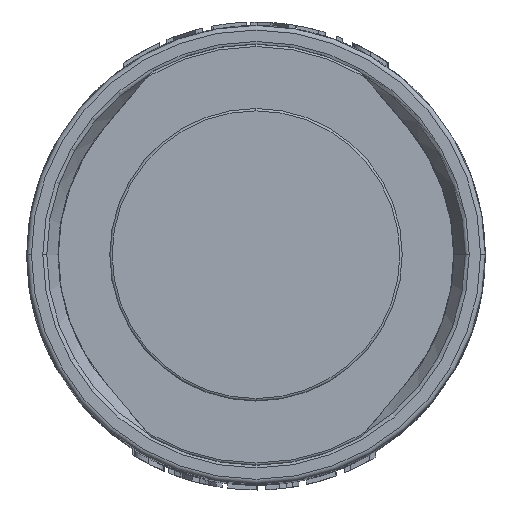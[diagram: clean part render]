
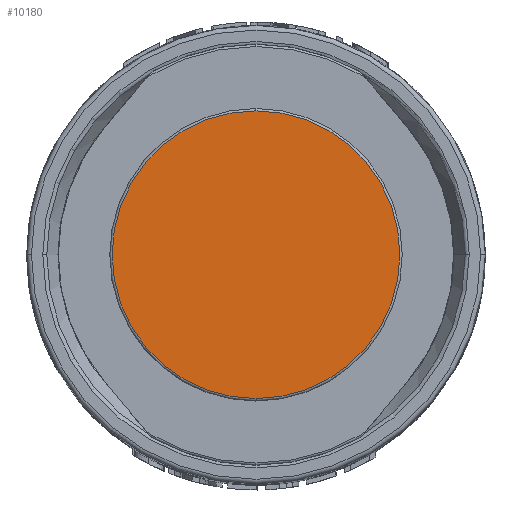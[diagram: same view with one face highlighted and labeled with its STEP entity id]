
A CAD part, top view. The second image highlights one B-rep face of the part: STEP entity #10180.
In plain terms, the highlighted planar face has unit normal (0, 0, 1) as drawn and (0, 1, 0) by its records, which use the part's own axes.
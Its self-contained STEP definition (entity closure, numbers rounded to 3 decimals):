
#4260 = EDGE_CURVE ( 'NONE', #5638, #13909, #9873, .T. ) ;
#5638 = VERTEX_POINT ( 'NONE', #21947 ) ;
#6550 = ORIENTED_EDGE ( 'NONE', *, *, #16637, .T. ) ;
#7670 = PLANE ( 'NONE',  #27931 ) ;
#9873 = CIRCLE ( 'NONE', #28246, 6.15 ) ;
#9955 = DIRECTION ( 'NONE',  ( 0., 0., -1. ) ) ;
#10180 = ADVANCED_FACE ( 'NONE', ( #27530 ), #7670, .F. ) ;
#10506 = CARTESIAN_POINT ( 'NONE',  ( 0., 32., 0. ) ) ;
#13909 = VERTEX_POINT ( 'NONE', #23345 ) ;
#16637 = EDGE_CURVE ( 'NONE', #13909, #5638, #32363, .T. ) ;
#17181 = ORIENTED_EDGE ( 'NONE', *, *, #4260, .T. ) ;
#17836 = DIRECTION ( 'NONE',  ( 0., -1., 0. ) ) ;
#21947 = CARTESIAN_POINT ( 'NONE',  ( 0., 32., -6.15 ) ) ;
#23345 = CARTESIAN_POINT ( 'NONE',  ( 0., 32., 6.15 ) ) ;
#24017 = AXIS2_PLACEMENT_3D ( 'NONE', #24068, #29142, #24534 ) ;
#24068 = CARTESIAN_POINT ( 'NONE',  ( 0., 32., 0. ) ) ;
#24534 = DIRECTION ( 'NONE',  ( 0., 0., -1. ) ) ;
#27263 = EDGE_LOOP ( 'NONE', ( #17181, #6550 ) ) ;
#27530 = FACE_OUTER_BOUND ( 'NONE', #27263, .T. ) ;
#27931 = AXIS2_PLACEMENT_3D ( 'NONE', #32459, #17836, #9955 ) ;
#28246 = AXIS2_PLACEMENT_3D ( 'NONE', #10506, #30870, #30708 ) ;
#29142 = DIRECTION ( 'NONE',  ( 0., 1., 0. ) ) ;
#30708 = DIRECTION ( 'NONE',  ( 0., 0., -1. ) ) ;
#30870 = DIRECTION ( 'NONE',  ( 0., 1., 0. ) ) ;
#32363 = CIRCLE ( 'NONE', #24017, 6.15 ) ;
#32459 = CARTESIAN_POINT ( 'NONE',  ( 0., 32., 0. ) ) ;
